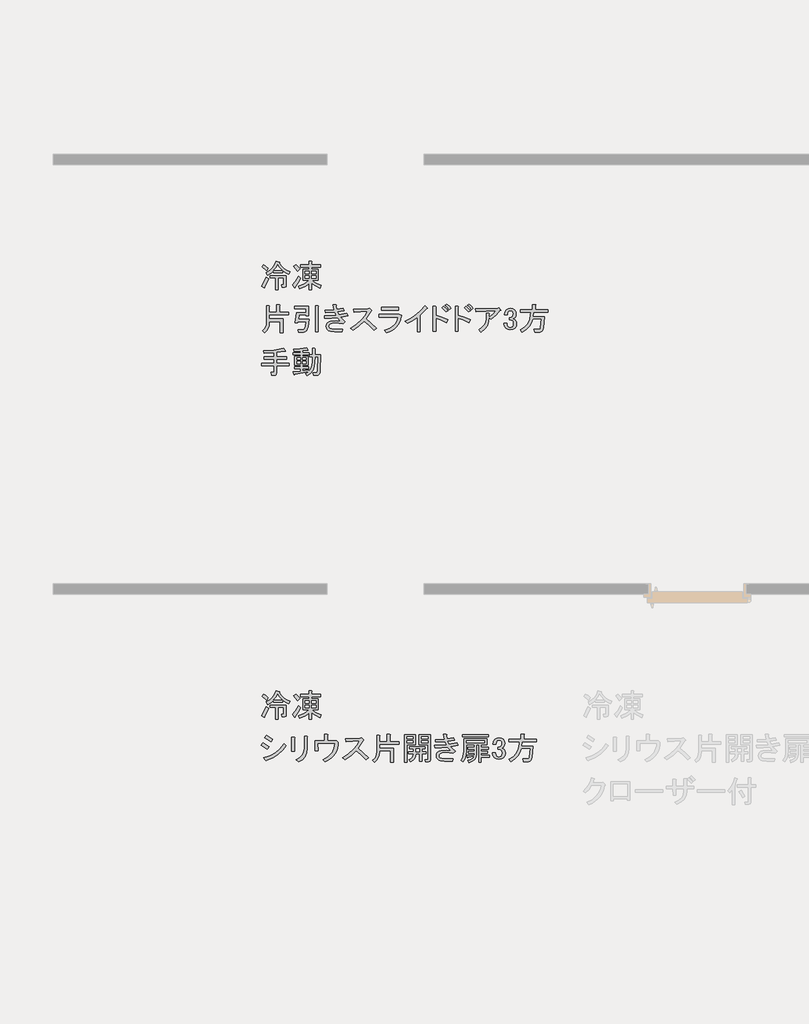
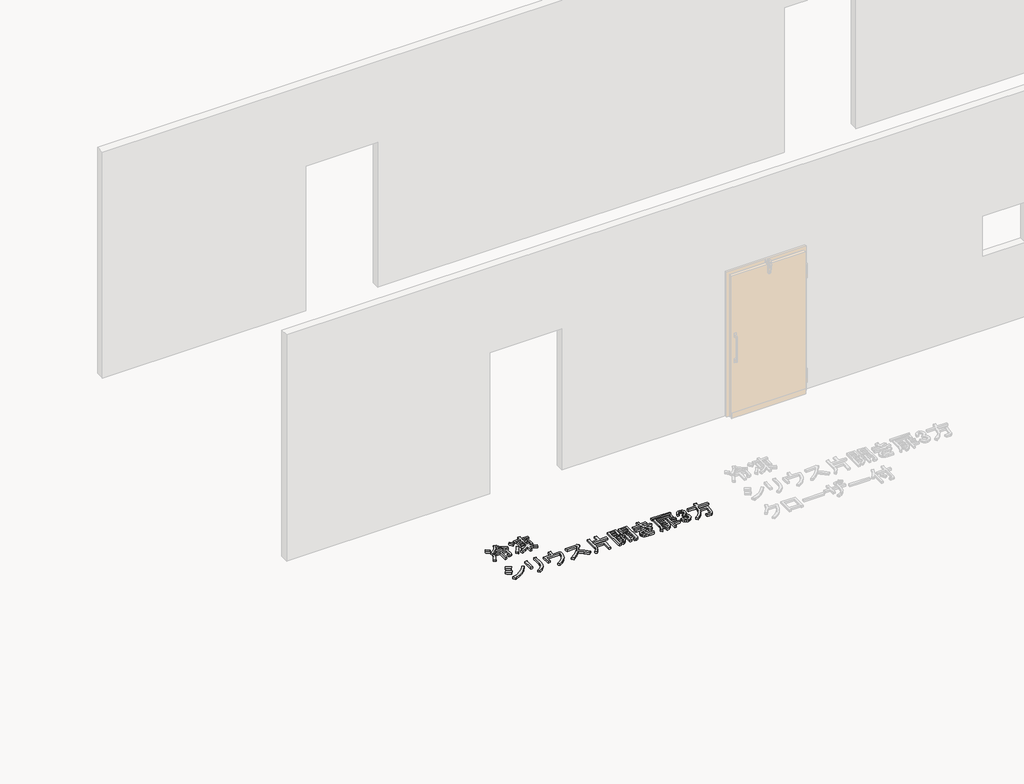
# One storey, part 96 of 117: 2 proxies.
"""IFC4 building model written with IfcOpenShell, lengths in millimetres."""

from ifc_helpers import new_model, si_unit, frame, origin, place, context, project, spatial, polyline, outline, extrude, element, save

model = new_model("IFC4")

# Units and contexts
model_context = context("Model", 3, world=origin())
ifc_project = project(units=[si_unit("LENGTHUNIT", "METRE", prefix="MILLI")], contexts=[model_context])

# Site, building, storey
site = spatial("IfcSite", under=ifc_project)
building = spatial("IfcBuilding", under=site)
storey = spatial("IfcBuildingStorey", under=building, Name="レベル 1", Elevation=500.0)

# Proxies
placement = place(None, origin())
element("IfcBuildingElementProxy", 1, Name="200㎜\u3000MS Pゴシック", ObjectType="200㎜\u3000MS Pゴシック", at=placement, inside=storey, context=model_context, shape_type="SweptSolid", body=[
    extrude(outline(polyline([(4383.6029468, 18948.5050774), (4417.2964447, 18967.9021871), (4443.6621457, 18991.6097656), (4462.7000496, 19019.6278129), (4474.4101566, 19051.9563291), (4505.4455321, 19043.9101206), (4506.882355, 19040.174381), (4501.997157, 19038.1628289), (4520.8195376, 19010.6476696), (4543.9523869, 18987.874026), (4571.3957051, 18969.8418981), (4603.149492, 18956.5512859), (4591.6549085, 18932.4126605), (4562.6310851, 18945.9187961), (4533.0325326, 18965.7469527), (4533.0325326, 18946.2061607), (4450.2715312, 18946.2061607), (4450.2715312, 18964.5974943), (4425.8455412, 18942.7577856), (4396.2469887, 18923.2169937), (4383.6029468, 18948.5050774)]), holes=[polyline([(4530.7336159, 18968.0458694), (4504.5834383, 18995.3455052), (4488.2036568, 19022.0704119), (4474.4101566, 18993.0465885), (4453.7199063, 18968.0458694), (4530.7336159, 18968.0458694)])]), frame((0.0, 0.0, 500.0), z_axis=(0.0, 0.0, 1.0), x_axis=(1.0, 0.0, 0.0)), (0.0, 0.0, 1.0), 25.0),
    extrude(outline(polyline([(4341.0729878, 18822.0646587), (4364.0621548, 18861.7209718), (4382.4534884, 18904.82566), (4403.1437388, 18892.1816181), (4385.6144989, 18848.2148362), (4367.5105299, 18812.8689919), (4366.9358007, 18806.5469709), (4362.9126965, 18805.9722417), (4341.0729878, 18822.0646587)])), frame((0.0, 0.0, 500.0), z_axis=(0.0, 0.0, 1.0), x_axis=(1.0, 0.0, 0.0)), (0.0, 0.0, 1.0), 25.0),
    extrude(outline(polyline([(4420.3856141, 18897.9289099), (4420.3856141, 18919.7686186), (4569.8151998, 18919.7686186), (4569.8151998, 18825.5130337), (4565.7920956, 18814.3058148), (4553.7227829, 18810.5700752), (4528.4346991, 18810.5700752), (4523.8368657, 18832.4097838), (4542.2281994, 18832.4097838), (4545.6765744, 18833.5592422), (4546.8260328, 18837.0076172), (4546.8260328, 18897.9289099), (4492.8014902, 18897.9289099), (4492.8014902, 18786.4314498), (4469.8123232, 18786.4314498), (4469.8123232, 18897.9289099), (4420.3856141, 18897.9289099)])), frame((0.0, 0.0, 500.0), z_axis=(0.0, 0.0, 1.0), x_axis=(1.0, 0.0, 0.0)), (0.0, 0.0, 1.0), 25.0),
    extrude(outline(polyline([(4358.314863, 19022.0704119), (4379.0051134, 19009.1390055), (4401.9942804, 18988.7361197), (4385.9018635, 18965.7469527), (4344.5213628, 19000.2307032), (4358.314863, 19022.0704119)])), frame((0.0, 0.0, 500.0), z_axis=(0.0, 0.0, 1.0), x_axis=(1.0, 0.0, 0.0)), (0.0, 0.0, 1.0), 25.0),
    extrude(outline(polyline([(4652.5762012, 18812.8689919), (4652.8635658, 18808.2711584), (4649.1278261, 18808.2711584), (4629.5870341, 18832.4097838), (4658.0361283, 18868.9050865), (4683.6115767, 18911.7224101), (4702.0029103, 18894.4805349), (4678.7263787, 18852.2379404), (4652.5762012, 18812.8689919)])), frame((0.0, 0.0, 500.0), z_axis=(0.0, 0.0, 1.0), x_axis=(1.0, 0.0, 0.0)), (0.0, 0.0, 1.0), 25.0),
    extrude(outline(polyline([(4659.4729513, 19022.0704119), (4696.2556185, 18981.8393696), (4675.5653682, 18962.2985776), (4639.9321593, 19004.8285366), (4659.4729513, 19022.0704119)])), frame((0.0, 0.0, 500.0), z_axis=(0.0, 0.0, 1.0), x_axis=(1.0, 0.0, 0.0)), (0.0, 0.0, 1.0), 25.0),
    extrude(outline(polyline([(4806.6036203, 18787.5809081), (4783.6144533, 18787.5809081), (4783.6144533, 18849.6516591), (4769.0307005, 18835.4989532), (4749.4180673, 18821.7772941), (4695.1061602, 18795.6271166), (4685.9104934, 18822.0646587), (4715.5090459, 18832.9126719), (4741.0844943, 18845.9159195), (4762.6368384, 18861.0744015), (4780.1660782, 18878.3881179), (4724.9920773, 18878.3881179), (4724.9920773, 18977.2415362), (4783.6144533, 18977.2415362), (4783.6144533, 18996.7823282), (4703.1523687, 18996.7823282), (4703.1523687, 19018.6220369), (4783.6144533, 19018.6220369), (4783.6144533, 19053.1057874), (4805.454162, 19053.1057874), (4810.33936, 19050.8068707), (4806.6036203, 19046.2090373), (4806.6036203, 19018.6220369), (4887.065705, 19018.6220369), (4887.065705, 18996.7823282), (4806.6036203, 18996.7823282), (4806.6036203, 18977.2415362), (4866.3754546, 18977.2415362), (4866.3754546, 18878.3881179), (4807.7530787, 18878.3881179), (4826.1444123, 18862.295701), (4846.8346627, 18848.5022008), (4895.1119134, 18827.8119504), (4884.7667883, 18802.5238667), (4841.6621001, 18823.5014816), (4806.6036203, 18849.6516591), (4806.6036203, 18787.5809081)]), holes=[polyline([(4806.6036203, 18937.0104939), (4846.8346627, 18937.0104939), (4846.8346627, 18958.8502026), (4806.6036203, 18958.8502026), (4806.6036203, 18937.0104939)]), polyline([(4806.6036203, 18896.7794516), (4846.8346627, 18896.7794516), (4846.8346627, 18918.6191602), (4806.6036203, 18918.6191602), (4806.6036203, 18896.7794516)]), polyline([(4744.5328693, 18896.7794516), (4783.6144533, 18896.7794516), (4783.6144533, 18918.6191602), (4744.5328693, 18918.6191602), (4744.5328693, 18896.7794516)]), polyline([(4744.5328693, 18937.0104939), (4783.6144533, 18937.0104939), (4783.6144533, 18958.8502026), (4744.5328693, 18958.8502026), (4744.5328693, 18937.0104939)])]), frame((0.0, 0.0, 500.0), z_axis=(0.0, 0.0, 1.0), x_axis=(1.0, 0.0, 0.0)), (0.0, 0.0, 1.0), 25.0),
    extrude(outline(polyline([(4360.6137797, 18431.2603255), (4419.379838, 18449.7235003), (4470.3870524, 18477.5260242), (4513.6354229, 18514.6678972), (4549.1249495, 18561.1491193), (4569.8151998, 18540.4588689), (4536.4809076, 18496.7794516), (4495.1004069, 18459.9967843), (4445.6736978, 18430.1108671), (4388.2007802, 18407.1217001), (4383.6029468, 18399.9375854), (4376.7061967, 18405.9722417), (4360.6137797, 18431.2603255)])), frame((0.0, 0.0, 500.0), z_axis=(0.0, 0.0, 1.0), x_axis=(1.0, 0.0, 0.0)), (0.0, 0.0, 1.0), 25.0),
    extrude(outline(polyline([(4352.5675713, 18570.3447861), (4411.1899472, 18533.5621188), (4392.7986136, 18509.4234934), (4335.325696, 18546.2061607), (4352.5675713, 18570.3447861)])), frame((0.0, 0.0, 500.0), z_axis=(0.0, 0.0, 1.0), x_axis=(1.0, 0.0, 0.0)), (0.0, 0.0, 1.0), 25.0),
    extrude(outline(polyline([(4384.7524051, 18638.1628289), (4443.3747811, 18601.3801616), (4427.2823642, 18577.2415362), (4369.8094466, 18614.0242035), (4384.7524051, 18638.1628289)])), frame((0.0, 0.0, 500.0), z_axis=(0.0, 0.0, 1.0), x_axis=(1.0, 0.0, 0.0)), (0.0, 0.0, 1.0), 25.0),
    extrude(outline(polyline([(4764.5334447, 18514.0213268), (4759.5045644, 18473.9339668), (4744.4179235, 18439.8812631), (4719.273522, 18411.8632158), (4684.07136, 18389.8798248), (4661.082193, 18409.4206168), (4694.344644, 18428.9614088), (4718.267746, 18453.1000342), (4732.8514988, 18481.836493), (4738.0959026, 18515.1707852), (4738.0959026, 18630.1166204), (4762.234528, 18630.1166204), (4768.5565489, 18626.6682453), (4764.5334447, 18620.9209536), (4764.5334447, 18514.0213268)])), frame((0.0, 0.0, 500.0), z_axis=(0.0, 0.0, 1.0), x_axis=(1.0, 0.0, 0.0)), (0.0, 0.0, 1.0), 25.0),
    extrude(outline(polyline([(4646.1392344, 18488.7332431), (4619.7016923, 18488.7332431), (4619.7016923, 18618.6220369), (4644.989776, 18618.6220369), (4651.0244324, 18615.748391), (4646.1392344, 18609.4263701), (4646.1392344, 18488.7332431)])), frame((0.0, 0.0, 500.0), z_axis=(0.0, 0.0, 1.0), x_axis=(1.0, 0.0, 0.0)), (0.0, 0.0, 1.0), 25.0),
    extrude(outline(polyline([(5053.047491, 18574.9426195), (5051.1616609, 18544.6436157), (5045.5041706, 18516.3920847), (5036.07502, 18490.1880263), (5022.8742093, 18466.0314406), (5005.9017383, 18443.9223276), (4985.1576071, 18423.8606873), (4960.6418157, 18405.8465197), (4932.3543641, 18389.8798248), (4910.5146554, 18411.7195335), (4959.3666353, 18440.1686277), (4978.6200627, 18456.7639327), (4994.4251151, 18474.9397429), (5006.7817923, 18494.6960583), (5015.6900946, 18516.032879), (5021.1500218, 18538.9502048), (5023.1615739, 18563.448036), (4863.3868629, 18563.448036), (4865.6857796, 18495.6299932), (4839.2482375, 18495.6299932), (4835.7998625, 18588.7361197), (4926.6070723, 18588.7361197), (4926.6070723, 18646.2090373), (4949.5962393, 18646.2090373), (4957.3550832, 18643.3353914), (4953.0446144, 18637.0133705), (4953.0446144, 18588.7361197), (5039.2539908, 18588.7361197), (5053.047491, 18574.9426195)])), frame((0.0, 0.0, 500.0), z_axis=(0.0, 0.0, 1.0), x_axis=(1.0, 0.0, 0.0)), (0.0, 0.0, 1.0), 25.0),
    extrude(outline(polyline([(5237.6964807, 18517.4697019), (5286.8358252, 18476.6639304), (5335.4004406, 18430.1108671), (5312.4112736, 18410.5700752), (5264.9961166, 18457.1231384), (5219.3051471, 18495.6299932), (5171.3152609, 18449.9390237), (5117.0033537, 18409.4206168), (5095.163645, 18428.9614088), (5150.6250105, 18468.6177219), (5195.1665217, 18508.2740351), (5228.7881785, 18547.9303482), (5251.4899809, 18587.5866614), (5126.1990205, 18579.5404529), (5122.7506455, 18607.1274534), (5256.0878143, 18612.8747451), (5269.8813145, 18616.3231202), (5288.2726482, 18597.9317865), (5291.1462941, 18591.322401), (5283.6748148, 18587.5866614), (5237.6964807, 18517.4697019)])), frame((0.0, 0.0, 500.0), z_axis=(0.0, 0.0, 1.0), x_axis=(1.0, 0.0, 0.0)), (0.0, 0.0, 1.0), 25.0),
    extrude(outline(polyline([(5435.8631006, 18637.0133705), (5441.8977569, 18633.5649954), (5437.0125589, 18627.8177037), (5437.0125589, 18579.5404529), (5508.2789768, 18579.5404529), (5508.2789768, 18648.507954), (5533.5670605, 18648.507954), (5539.6017169, 18645.059579), (5534.7165189, 18639.3122872), (5534.7165189, 18579.5404529), (5619.7764369, 18579.5404529), (5619.7764369, 18554.2523692), (5437.0125589, 18554.2523692), (5437.0125589, 18517.4697019), (5566.9013527, 18517.4697019), (5566.9013527, 18388.7303665), (5540.4638106, 18388.7303665), (5540.4638106, 18492.1816181), (5437.0125589, 18492.1816181), (5437.0125589, 18480.6870346), (5434.2825953, 18453.7466045), (5426.0927046, 18429.2487734), (5412.4428867, 18407.1935412), (5393.3331416, 18387.5809081), (5374.9418079, 18405.9722417), (5392.0400009, 18421.5617706), (5404.2529959, 18439.5938985), (5411.5807929, 18460.0686254), (5414.0233919, 18482.9859513), (5414.0233919, 18637.0133705), (5435.8631006, 18637.0133705)])), frame((0.0, 0.0, 500.0), z_axis=(0.0, 0.0, 1.0), x_axis=(1.0, 0.0, 0.0)), (0.0, 0.0, 1.0), 25.0),
    extrude(outline(polyline([(5773.8038561, 18548.5050774), (5693.3417714, 18548.5050774), (5693.3417714, 18387.5809081), (5670.3526044, 18387.5809081), (5670.3526044, 18643.9101206), (5773.8038561, 18643.9101206), (5773.8038561, 18548.5050774)]), holes=[polyline([(5750.814689, 18625.518787), (5693.3417714, 18625.518787), (5693.3417714, 18604.8285366), (5750.814689, 18604.8285366), (5750.814689, 18625.518787)]), polyline([(5693.3417714, 18566.896411), (5750.814689, 18566.896411), (5750.814689, 18586.437203), (5693.3417714, 18586.437203), (5693.3417714, 18566.896411)])]), frame((0.0, 0.0, 500.0), z_axis=(0.0, 0.0, 1.0), x_axis=(1.0, 0.0, 0.0)), (0.0, 0.0, 1.0), 25.0),
    extrude(outline(polyline([(5804.8392316, 18643.9101206), (5912.8883167, 18643.9101206), (5912.8883167, 18409.4206168), (5908.2904833, 18395.6271166), (5894.496983, 18391.0292832), (5866.9099826, 18391.0292832), (5863.4616075, 18412.8689919), (5885.3013162, 18412.8689919), (5888.7496913, 18414.0184502), (5889.8991496, 18417.4668253), (5889.8991496, 18548.5050774), (5847.3691906, 18548.5050774), (5804.8392316, 18548.5050774), (5804.8392316, 18643.9101206)]), holes=[polyline([(5889.8991496, 18604.8285366), (5889.8991496, 18625.518787), (5827.8283986, 18625.518787), (5827.8283986, 18604.8285366), (5889.8991496, 18604.8285366)]), polyline([(5827.8283986, 18566.896411), (5889.8991496, 18566.896411), (5889.8991496, 18586.437203), (5827.8283986, 18586.437203), (5827.8283986, 18566.896411)])]), frame((0.0, 0.0, 500.0), z_axis=(0.0, 0.0, 1.0), x_axis=(1.0, 0.0, 0.0)), (0.0, 0.0, 1.0), 25.0),
    extrude(outline(polyline([(5709.4341884, 18465.7440761), (5709.4341884, 18484.1354097), (5755.4125225, 18484.1354097), (5755.4125225, 18511.7224101), (5717.4803968, 18511.7224101), (5717.4803968, 18530.1137438), (5862.3121492, 18530.1137438), (5862.3121492, 18511.7224101), (5832.426232, 18511.7224101), (5832.426232, 18484.1354097), (5871.507816, 18484.1354097), (5871.507816, 18465.7440761), (5832.426232, 18465.7440761), (5832.426232, 18396.7765749), (5809.437065, 18396.7765749), (5809.437065, 18465.7440761), (5778.4016895, 18465.7440761), (5776.0309316, 18442.1083387), (5766.6197414, 18421.7772941), (5750.1681187, 18404.7509422), (5726.6760637, 18391.0292832), (5715.1814801, 18412.8689919), (5732.7825611, 18421.7772941), (5745.3547619, 18433.5592422), (5752.8980823, 18448.2148362), (5755.4125225, 18465.7440761), (5709.4341884, 18465.7440761)]), holes=[polyline([(5809.437065, 18484.1354097), (5809.437065, 18511.7224101), (5778.4016895, 18511.7224101), (5778.4016895, 18484.1354097), (5809.437065, 18484.1354097)])]), frame((0.0, 0.0, 500.0), z_axis=(0.0, 0.0, 1.0), x_axis=(1.0, 0.0, 0.0)), (0.0, 0.0, 1.0), 25.0),
    extrude(outline(polyline([(6073.812486, 18582.988828), (6087.6059862, 18554.2523692), (6160.0218624, 18570.3447861), (6170.3669875, 18546.2061607), (6100.2500281, 18533.5621188), (6120.0781846, 18511.147681), (6145.0789038, 18489.8827014), (6125.5381118, 18470.3419095), (6088.46808, 18477.2386596), (6060.0189857, 18479.5375763), (6022.0868601, 18476.0892012), (6009.1554537, 18471.7787324), (6000.2471514, 18465.7440761), (5994.2124951, 18457.410503), (5992.200943, 18448.5022008), (5993.9251305, 18438.1570756), (5999.0976931, 18430.1108671), (6016.626933, 18423.214117), (6050.8233189, 18420.9152003), (6120.9402784, 18420.9152003), (6116.342445, 18395.6271166), (6046.2254855, 18395.6271166), (6007.1439015, 18400.22495), (5992.7756721, 18405.9722417), (5981.8558178, 18414.0184502), (5971.5106926, 18429.8235025), (5968.0623176, 18449.6516591), (5971.223328, 18465.7440761), (5980.7063595, 18479.5375763), (5993.0630367, 18488.0866728), (6010.5922766, 18494.1931703), (6061.1684441, 18499.0783683), (6102.5489448, 18495.6299932), (6073.812486, 18528.9642854), (6017.2016621, 18523.7917228), (5955.4182757, 18522.0675353), (5951.9699007, 18546.2061607), (6008.8680891, 18546.7808899), (6062.3179024, 18550.8039941), (6049.6738606, 18579.5404529), (5961.1655675, 18576.0920778), (5958.8666508, 18599.0812449), (6043.9265688, 18601.3801616), (6034.730902, 18648.507954), (6060.0189857, 18648.507954), (6066.0536421, 18645.059579), (6061.1684441, 18639.3122872), (6066.9157359, 18604.8285366), (6127.8370285, 18616.3231202), (6135.883237, 18593.3339531), (6073.812486, 18582.988828)])), frame((0.0, 0.0, 500.0), z_axis=(0.0, 0.0, 1.0), x_axis=(1.0, 0.0, 0.0)), (0.0, 0.0, 1.0), 25.0),
    extrude(outline(polyline([(6452.0302621, 18641.6112039), (6452.0302621, 18623.2198703), (6212.9429249, 18623.2198703), (6212.9429249, 18641.6112039), (6452.0302621, 18641.6112039)])), frame((0.0, 0.0, 500.0), z_axis=(0.0, 0.0, 1.0), x_axis=(1.0, 0.0, 0.0)), (0.0, 0.0, 1.0), 25.0),
    extrude(outline(polyline([(6264.6685507, 18403.673325), (6284.4967073, 18410.3545517), (6300.3017597, 18418.9036482), (6312.0837078, 18429.3206145), (6319.8425516, 18441.6054507), (6264.6685507, 18433.5592422), (6262.6569986, 18428.6740442), (6258.921259, 18430.1108671), (6254.3234256, 18451.9505758), (6322.1414683, 18458.8473259), (6322.1414683, 18472.6408262), (6268.1169258, 18472.6408262), (6268.1169258, 18491.0321598), (6322.1414683, 18491.0321598), (6322.1414683, 18509.4234934), (6261.2201757, 18509.4234934), (6261.2201757, 18527.8148271), (6322.1414683, 18527.8148271), (6322.1414683, 18548.5050774), (6247.4266755, 18548.5050774), (6247.4266755, 18482.9859513), (6245.4151233, 18455.6144743), (6239.380467, 18430.9729609), (6229.3227064, 18409.0614111), (6215.2418416, 18389.8798248), (6197.9999663, 18407.1217001), (6209.566391, 18424.7946223), (6217.8281229, 18444.4790965), (6222.785162, 18466.1751229), (6224.4375084, 18489.8827014), (6224.4375084, 18605.977995), (6441.685137, 18605.977995), (6441.685137, 18548.5050774), (6385.3616777, 18548.5050774), (6385.3616777, 18527.8148271), (6455.4786372, 18527.8148271), (6455.4786372, 18509.4234934), (6385.3616777, 18509.4234934), (6385.3616777, 18491.0321598), (6442.8345953, 18491.0321598), (6442.8345953, 18472.6408262), (6385.3616777, 18472.6408262), (6385.3616777, 18453.1000342), (6462.3753873, 18453.1000342), (6462.3753873, 18434.7087005), (6385.3616777, 18434.7087005), (6385.3616777, 18388.7303665), (6365.8208857, 18388.7303665), (6365.8208857, 18548.5050774), (6341.6822603, 18548.5050774), (6341.6822603, 18462.295701), (6337.2999504, 18434.4931771), (6324.1530205, 18412.0068981), (6302.2414706, 18394.836864), (6271.5653009, 18382.9830747), (6264.6685507, 18403.673325)]), holes=[polyline([(6418.6959699, 18587.5866614), (6247.4266755, 18587.5866614), (6247.4266755, 18566.896411), (6418.6959699, 18566.896411), (6418.6959699, 18587.5866614)])]), frame((0.0, 0.0, 500.0), z_axis=(0.0, 0.0, 1.0), x_axis=(1.0, 0.0, 0.0)), (0.0, 0.0, 1.0), 25.0),
    extrude(outline(polyline([(6498.0085962, 18556.5512859), (6502.319065, 18580.6899113), (6515.2504715, 18600.2307032), (6531.9176176, 18611.4379222), (6552.0331388, 18615.1736618), (6574.7349412, 18611.4379222), (6592.2641811, 18600.2307032), (6602.6093062, 18584.1382863), (6606.0576813, 18563.448036), (6603.1840354, 18543.3325148), (6594.5630978, 18528.9642854), (6586.2295247, 18522.6422645), (6577.3212225, 18519.7686186), (6596.8620145, 18508.2740351), (6607.2071396, 18492.1816181), (6610.6555147, 18471.4913678), (6606.6324105, 18448.5022008), (6594.5630978, 18430.1108671), (6575.3096704, 18418.0415544), (6549.734222, 18414.0184502), (6527.6071488, 18418.0415544), (6509.5031797, 18430.1108671), (6497.433867, 18447.640107), (6493.4107628, 18468.0429928), (6493.4107628, 18477.2386596), (6519.8483049, 18477.2386596), (6519.8483049, 18469.1924511), (6522.4345862, 18455.3989509), (6530.1934301, 18443.9043674), (6539.1017323, 18437.869711), (6549.734222, 18435.8581589), (6563.2403577, 18438.1570756), (6573.8728474, 18445.0538257), (6580.7695976, 18456.8357738), (6583.0685143, 18473.7902845), (6580.7695976, 18488.1585139), (6573.8728474, 18499.0783683), (6564.1024514, 18505.9751184), (6553.1825971, 18508.2740351), (6543.9869303, 18508.2740351), (6543.9869303, 18527.8148271), (6550.8836804, 18527.8148271), (6560.941441, 18530.1137438), (6570.4244724, 18537.0104939), (6577.3212225, 18548.2177128), (6579.6201392, 18563.448036), (6577.3212225, 18576.9541716), (6570.4244724, 18587.5866614), (6562.3782639, 18592.759224), (6552.0331388, 18594.4834115), (6542.2627428, 18592.4718594), (6533.6418051, 18586.437203), (6526.4576904, 18574.3678903), (6523.29668, 18556.5512859), (6498.0085962, 18556.5512859)])), frame((0.0, 0.0, 500.0), z_axis=(0.0, 0.0, 1.0), x_axis=(1.0, 0.0, 0.0)), (0.0, 0.0, 1.0), 25.0),
    extrude(outline(polyline([(6763.5334755, 18538.1599522), (6870.4331023, 18538.1599522), (6858.9385187, 18434.7087005), (6855.130938, 18416.6047315), (6848.306029, 18403.673325), (6838.4637919, 18395.9144812), (6825.6042265, 18393.3281999), (6779.6258925, 18393.3281999), (6773.8786007, 18418.6162836), (6823.3053098, 18418.6162836), (6829.9146954, 18422.9267524), (6833.650435, 18435.8581589), (6842.8461018, 18516.3202435), (6760.0851005, 18516.3202435), (6748.3031524, 18480.8307169), (6727.9002666, 18447.9274716), (6698.8764432, 18417.6105076), (6661.2316822, 18389.8798248), (6645.1392653, 18414.0184502), (6684.7237373, 18440.2404689), (6713.8194018, 18472.9281908), (6732.4262589, 18512.0816159), (6740.5443085, 18557.7007442), (6741.6937668, 18578.3909946), (6645.1392653, 18578.3909946), (6645.1392653, 18603.6790783), (6757.7861838, 18603.6790783), (6757.7861838, 18649.6574124), (6783.0742675, 18649.6574124), (6789.1089239, 18646.2090373), (6784.2237259, 18640.4617456), (6784.2237259, 18603.6790783), (6900.3190194, 18603.6790783), (6900.3190194, 18578.3909946), (6768.1313089, 18578.3909946), (6763.5334755, 18538.1599522)])), frame((0.0, 0.0, 500.0), z_axis=(0.0, 0.0, 1.0), x_axis=(1.0, 0.0, 0.0)), (0.0, 0.0, 1.0), 25.0),
])
element("IfcBuildingElementProxy", 2, Name="200㎜\u3000MS Pゴシック", ObjectType="200㎜\u3000MS Pゴシック", at=placement, inside=storey, context=model_context, shape_type="SweptSolid", body=[
    extrude(outline(polyline([(4383.6029468, 22948.5050774), (4417.2964447, 22967.9021871), (4443.6621457, 22991.6097656), (4462.7000496, 23019.6278129), (4474.4101566, 23051.9563291), (4505.4455321, 23043.9101206), (4506.882355, 23040.174381), (4501.997157, 23038.1628289), (4520.8195376, 23010.6476696), (4543.9523869, 22987.874026), (4571.3957051, 22969.8418981), (4603.149492, 22956.5512859), (4591.6549085, 22932.4126605), (4562.6310851, 22945.9187961), (4533.0325326, 22965.7469527), (4533.0325326, 22946.2061607), (4450.2715312, 22946.2061607), (4450.2715312, 22964.5974943), (4425.8455412, 22942.7577856), (4396.2469887, 22923.2169937), (4383.6029468, 22948.5050774)]), holes=[polyline([(4530.7336159, 22968.0458694), (4504.5834383, 22995.3455052), (4488.2036568, 23022.0704119), (4474.4101566, 22993.0465885), (4453.7199063, 22968.0458694), (4530.7336159, 22968.0458694)])]), frame((0.0, 0.0, 500.0), z_axis=(0.0, 0.0, 1.0), x_axis=(1.0, 0.0, 0.0)), (0.0, 0.0, 1.0), 25.0),
    extrude(outline(polyline([(4341.0729878, 22822.0646587), (4364.0621548, 22861.7209718), (4382.4534884, 22904.82566), (4403.1437388, 22892.1816181), (4385.6144989, 22848.2148362), (4367.5105299, 22812.8689919), (4366.9358007, 22806.5469709), (4362.9126965, 22805.9722417), (4341.0729878, 22822.0646587)])), frame((0.0, 0.0, 500.0), z_axis=(0.0, 0.0, 1.0), x_axis=(1.0, 0.0, 0.0)), (0.0, 0.0, 1.0), 25.0),
    extrude(outline(polyline([(4420.3856141, 22897.9289099), (4420.3856141, 22919.7686186), (4569.8151998, 22919.7686186), (4569.8151998, 22825.5130337), (4565.7920956, 22814.3058148), (4553.7227829, 22810.5700752), (4528.4346991, 22810.5700752), (4523.8368657, 22832.4097838), (4542.2281994, 22832.4097838), (4545.6765744, 22833.5592422), (4546.8260328, 22837.0076172), (4546.8260328, 22897.9289099), (4492.8014902, 22897.9289099), (4492.8014902, 22786.4314498), (4469.8123232, 22786.4314498), (4469.8123232, 22897.9289099), (4420.3856141, 22897.9289099)])), frame((0.0, 0.0, 500.0), z_axis=(0.0, 0.0, 1.0), x_axis=(1.0, 0.0, 0.0)), (0.0, 0.0, 1.0), 25.0),
    extrude(outline(polyline([(4358.314863, 23022.0704119), (4379.0051134, 23009.1390055), (4401.9942804, 22988.7361197), (4385.9018635, 22965.7469527), (4344.5213628, 23000.2307032), (4358.314863, 23022.0704119)])), frame((0.0, 0.0, 500.0), z_axis=(0.0, 0.0, 1.0), x_axis=(1.0, 0.0, 0.0)), (0.0, 0.0, 1.0), 25.0),
    extrude(outline(polyline([(4652.5762012, 22812.8689919), (4652.8635658, 22808.2711584), (4649.1278261, 22808.2711584), (4629.5870341, 22832.4097838), (4658.0361283, 22868.9050865), (4683.6115767, 22911.7224101), (4702.0029103, 22894.4805349), (4678.7263787, 22852.2379404), (4652.5762012, 22812.8689919)])), frame((0.0, 0.0, 500.0), z_axis=(0.0, 0.0, 1.0), x_axis=(1.0, 0.0, 0.0)), (0.0, 0.0, 1.0), 25.0),
    extrude(outline(polyline([(4659.4729513, 23022.0704119), (4696.2556185, 22981.8393696), (4675.5653682, 22962.2985776), (4639.9321593, 23004.8285366), (4659.4729513, 23022.0704119)])), frame((0.0, 0.0, 500.0), z_axis=(0.0, 0.0, 1.0), x_axis=(1.0, 0.0, 0.0)), (0.0, 0.0, 1.0), 25.0),
    extrude(outline(polyline([(4806.6036203, 22787.5809081), (4783.6144533, 22787.5809081), (4783.6144533, 22849.6516591), (4769.0307005, 22835.4989532), (4749.4180673, 22821.7772941), (4695.1061602, 22795.6271166), (4685.9104934, 22822.0646587), (4715.5090459, 22832.9126719), (4741.0844943, 22845.9159195), (4762.6368384, 22861.0744015), (4780.1660782, 22878.3881179), (4724.9920773, 22878.3881179), (4724.9920773, 22977.2415362), (4783.6144533, 22977.2415362), (4783.6144533, 22996.7823282), (4703.1523687, 22996.7823282), (4703.1523687, 23018.6220369), (4783.6144533, 23018.6220369), (4783.6144533, 23053.1057874), (4805.454162, 23053.1057874), (4810.33936, 23050.8068707), (4806.6036203, 23046.2090373), (4806.6036203, 23018.6220369), (4887.065705, 23018.6220369), (4887.065705, 22996.7823282), (4806.6036203, 22996.7823282), (4806.6036203, 22977.2415362), (4866.3754546, 22977.2415362), (4866.3754546, 22878.3881179), (4807.7530787, 22878.3881179), (4826.1444123, 22862.295701), (4846.8346627, 22848.5022008), (4895.1119134, 22827.8119504), (4884.7667883, 22802.5238667), (4841.6621001, 22823.5014816), (4806.6036203, 22849.6516591), (4806.6036203, 22787.5809081)]), holes=[polyline([(4806.6036203, 22937.0104939), (4846.8346627, 22937.0104939), (4846.8346627, 22958.8502026), (4806.6036203, 22958.8502026), (4806.6036203, 22937.0104939)]), polyline([(4806.6036203, 22896.7794516), (4846.8346627, 22896.7794516), (4846.8346627, 22918.6191602), (4806.6036203, 22918.6191602), (4806.6036203, 22896.7794516)]), polyline([(4744.5328693, 22896.7794516), (4783.6144533, 22896.7794516), (4783.6144533, 22918.6191602), (4744.5328693, 22918.6191602), (4744.5328693, 22896.7794516)]), polyline([(4744.5328693, 22937.0104939), (4783.6144533, 22937.0104939), (4783.6144533, 22958.8502026), (4744.5328693, 22958.8502026), (4744.5328693, 22937.0104939)])]), frame((0.0, 0.0, 500.0), z_axis=(0.0, 0.0, 1.0), x_axis=(1.0, 0.0, 0.0)), (0.0, 0.0, 1.0), 25.0),
    extrude(outline(polyline([(4408.8910305, 22637.0133705), (4414.9256869, 22633.5649954), (4410.0404889, 22627.8177037), (4410.0404889, 22579.5404529), (4481.3069067, 22579.5404529), (4481.3069067, 22648.507954), (4506.5949905, 22648.507954), (4512.6296468, 22645.059579), (4507.7444488, 22639.3122872), (4507.7444488, 22579.5404529), (4592.8043669, 22579.5404529), (4592.8043669, 22554.2523692), (4410.0404889, 22554.2523692), (4410.0404889, 22517.4697019), (4539.9292827, 22517.4697019), (4539.9292827, 22388.7303665), (4513.4917406, 22388.7303665), (4513.4917406, 22492.1816181), (4410.0404889, 22492.1816181), (4410.0404889, 22480.6870346), (4407.3105253, 22453.7466045), (4399.1206345, 22429.2487734), (4385.4708166, 22407.1935412), (4366.3610715, 22387.5809081), (4347.9697379, 22405.9722417), (4365.0679309, 22421.5617706), (4377.2809259, 22439.5938985), (4384.6087228, 22460.0686254), (4387.0513218, 22482.9859513), (4387.0513218, 22637.0133705), (4408.8910305, 22637.0133705)])), frame((0.0, 0.0, 500.0), z_axis=(0.0, 0.0, 1.0), x_axis=(1.0, 0.0, 0.0)), (0.0, 0.0, 1.0), 25.0),
    extrude(outline(polyline([(4866.3754546, 22396.7765749), (4843.3862876, 22396.7765749), (4843.3862876, 22637.0133705), (4865.2259963, 22637.0133705), (4870.1111943, 22634.7144538), (4866.3754546, 22630.1166204), (4866.3754546, 22396.7765749)])), frame((0.0, 0.0, 500.0), z_axis=(0.0, 0.0, 1.0), x_axis=(1.0, 0.0, 0.0)), (0.0, 0.0, 1.0), 25.0),
    extrude(outline(polyline([(4780.1660782, 22511.7224101), (4770.9704114, 22441.8928152), (4764.6483905, 22419.2628539), (4757.1769112, 22404.8227834), (4746.5444214, 22397.0639395), (4730.7393691, 22394.4776582), (4684.761035, 22394.4776582), (4681.31266, 22416.3173669), (4723.842619, 22416.3173669), (4734.4751088, 22418.328919), (4741.0844943, 22424.3635754), (4749.1307027, 22448.2148362), (4754.8779945, 22489.8827014), (4677.8642849, 22489.8827014), (4675.5653682, 22478.3881179), (4651.4267428, 22481.836493), (4667.5191597, 22574.9426195), (4753.7285361, 22574.9426195), (4753.7285361, 22611.7252868), (4647.9783678, 22611.7252868), (4647.9783678, 22633.5649954), (4776.7177032, 22633.5649954), (4776.7177032, 22547.355619), (4753.7285361, 22547.355619), (4753.7285361, 22553.1029108), (4689.3588684, 22553.1029108), (4682.4621183, 22511.7224101), (4780.1660782, 22511.7224101)])), frame((0.0, 0.0, 500.0), z_axis=(0.0, 0.0, 1.0), x_axis=(1.0, 0.0, 0.0)), (0.0, 0.0, 1.0), 25.0),
    extrude(outline(polyline([(5046.8404159, 22582.988828), (5060.6339161, 22554.2523692), (5133.0497923, 22570.3447861), (5143.3949175, 22546.2061607), (5073.277958, 22533.5621188), (5093.1061146, 22511.147681), (5118.1068337, 22489.8827014), (5098.5660418, 22470.3419095), (5061.4960099, 22477.2386596), (5033.0469157, 22479.5375763), (4995.1147901, 22476.0892012), (4982.1833836, 22471.7787324), (4973.2750814, 22465.7440761), (4967.240425, 22457.410503), (4965.2288729, 22448.5022008), (4966.9530605, 22438.1570756), (4972.125623, 22430.1108671), (4989.6548629, 22423.214117), (5023.8512489, 22420.9152003), (5093.9682084, 22420.9152003), (5089.3703749, 22395.6271166), (5019.2534155, 22395.6271166), (4980.1718315, 22400.22495), (4965.8036021, 22405.9722417), (4954.8837478, 22414.0184502), (4944.5386226, 22429.8235025), (4941.0902475, 22449.6516591), (4944.251258, 22465.7440761), (4953.7342894, 22479.5375763), (4966.0909667, 22488.0866728), (4983.6202066, 22494.1931703), (5034.196374, 22499.0783683), (5075.5768747, 22495.6299932), (5046.8404159, 22528.9642854), (4990.2295921, 22523.7917228), (4928.4462057, 22522.0675353), (4924.9978306, 22546.2061607), (4981.896019, 22546.7808899), (5035.3458324, 22550.8039941), (5022.7017905, 22579.5404529), (4934.1934974, 22576.0920778), (4931.8945807, 22599.0812449), (5016.9544988, 22601.3801616), (5007.7588319, 22648.507954), (5033.0469157, 22648.507954), (5039.081572, 22645.059579), (5034.196374, 22639.3122872), (5039.9436658, 22604.8285366), (5100.8649585, 22616.3231202), (5108.9111669, 22593.3339531), (5046.8404159, 22582.988828)])), frame((0.0, 0.0, 500.0), z_axis=(0.0, 0.0, 1.0), x_axis=(1.0, 0.0, 0.0)), (0.0, 0.0, 1.0), 25.0),
    extrude(outline(polyline([(5311.2618152, 22517.4697019), (5360.4011598, 22476.6639304), (5408.9657751, 22430.1108671), (5385.9766081, 22410.5700752), (5338.5614511, 22457.1231384), (5292.8704816, 22495.6299932), (5244.8805954, 22449.9390237), (5190.5686883, 22409.4206168), (5168.7289796, 22428.9614088), (5224.1903451, 22468.6177219), (5268.7318562, 22508.2740351), (5302.353513, 22547.9303482), (5325.0553154, 22587.5866614), (5199.7643551, 22579.5404529), (5196.31598, 22607.1274534), (5329.6531489, 22612.8747451), (5343.4466491, 22616.3231202), (5361.8379827, 22597.9317865), (5364.7116286, 22591.322401), (5357.2401493, 22587.5866614), (5311.2618152, 22517.4697019)])), frame((0.0, 0.0, 500.0), z_axis=(0.0, 0.0, 1.0), x_axis=(1.0, 0.0, 0.0)), (0.0, 0.0, 1.0), 25.0),
    extrude(outline(polyline([(5615.1786035, 22597.9317865), (5456.5533509, 22597.9317865), (5456.5533509, 22623.2198703), (5615.1786035, 22623.2198703), (5615.1786035, 22597.9317865)])), frame((0.0, 0.0, 500.0), z_axis=(0.0, 0.0, 1.0), x_axis=(1.0, 0.0, 0.0)), (0.0, 0.0, 1.0), 25.0),
    extrude(outline(polyline([(5485.2898097, 22411.7195335), (5534.9320423, 22430.039026), (5555.1732855, 22442.1622195), (5572.3612799, 22456.2610446), (5586.4960256, 22472.3355013), (5597.5775225, 22490.3855895), (5605.6057707, 22510.4113092), (5610.5807701, 22532.4126605), (5435.8631006, 22532.4126605), (5435.8631006, 22557.7007442), (5611.7302284, 22557.7007442), (5622.0753536, 22561.1491193), (5642.765604, 22548.5050774), (5645.6392498, 22543.0451502), (5640.4666872, 22538.1599522), (5634.3422295, 22510.6807135), (5625.1645229, 22485.7159149), (5612.9335677, 22463.2655565), (5597.6493636, 22443.3296382), (5579.3119109, 22425.90816), (5557.9212093, 22411.001122), (5533.4772591, 22398.6085242), (5505.9800601, 22388.7303665), (5485.2898097, 22411.7195335)])), frame((0.0, 0.0, 500.0), z_axis=(0.0, 0.0, 1.0), x_axis=(1.0, 0.0, 0.0)), (0.0, 0.0, 1.0), 25.0),
    extrude(outline(polyline([(5677.6631595, 22496.7794516), (5734.3458245, 22524.6538166), (5783.7006925, 22557.7007442), (5825.7277635, 22595.9202344), (5860.4270375, 22639.3122872), (5882.2667462, 22620.9209536), (5884.8530275, 22614.8862972), (5874.2205377, 22610.5758284), (5849.2198186, 22581.552005), (5817.8970785, 22551.9534525), (5817.8970785, 22395.6271166), (5791.4595364, 22395.6271166), (5791.4595364, 22530.1137438), (5747.780119, 22500.5151912), (5697.2039515, 22473.7902845), (5677.6631595, 22496.7794516)])), frame((0.0, 0.0, 500.0), z_axis=(0.0, 0.0, 1.0), x_axis=(1.0, 0.0, 0.0)), (0.0, 0.0, 1.0), 25.0),
    extrude(outline(polyline([(6062.6397508, 22480.6870346), (6007.1783853, 22506.5498475), (5962.6368742, 22522.0675353), (5962.6368742, 22402.5238667), (5936.1993321, 22402.5238667), (5936.1993321, 22632.4155371), (5959.1884991, 22632.4155371), (5966.947343, 22629.5418912), (5962.6368742, 22623.2198703), (5962.6368742, 22550.8039941), (6019.247698, 22531.8379313), (6076.433251, 22507.1245767), (6062.6397508, 22480.6870346)])), frame((0.0, 0.0, 500.0), z_axis=(0.0, 0.0, 1.0), x_axis=(1.0, 0.0, 0.0)), (0.0, 0.0, 1.0), 25.0),
    extrude(outline(polyline([(6060.3408341, 22581.8393696), (6040.8000421, 22603.6790783), (6021.2592501, 22620.9209536), (6036.2022087, 22632.4155371), (6055.7430007, 22615.1736618), (6075.2837927, 22593.3339531), (6060.3408341, 22581.8393696)])), frame((0.0, 0.0, 500.0), z_axis=(0.0, 0.0, 1.0), x_axis=(1.0, 0.0, 0.0)), (0.0, 0.0, 1.0), 25.0),
    extrude(outline(polyline([(6087.9278345, 22603.6790783), (6070.9733238, 22622.9325057), (6049.9957089, 22641.6112039), (6064.9386675, 22653.1057874), (6084.1920949, 22636.7260059), (6102.8707931, 22615.1736618), (6087.9278345, 22603.6790783)])), frame((0.0, 0.0, 500.0), z_axis=(0.0, 0.0, 1.0), x_axis=(1.0, 0.0, 0.0)), (0.0, 0.0, 1.0), 25.0),
    extrude(outline(polyline([(6271.5653009, 22480.6870346), (6216.1039354, 22506.5498475), (6171.5624242, 22522.0675353), (6171.5624242, 22402.5238667), (6145.1248821, 22402.5238667), (6145.1248821, 22632.4155371), (6168.1140492, 22632.4155371), (6175.872893, 22629.5418912), (6171.5624242, 22623.2198703), (6171.5624242, 22550.8039941), (6228.1732481, 22531.8379313), (6285.3588011, 22507.1245767), (6271.5653009, 22480.6870346)])), frame((0.0, 0.0, 500.0), z_axis=(0.0, 0.0, 1.0), x_axis=(1.0, 0.0, 0.0)), (0.0, 0.0, 1.0), 25.0),
    extrude(outline(polyline([(6269.2663841, 22581.8393696), (6249.7255922, 22603.6790783), (6230.1848002, 22620.9209536), (6245.1277588, 22632.4155371), (6264.6685507, 22615.1736618), (6284.2093427, 22593.3339531), (6269.2663841, 22581.8393696)])), frame((0.0, 0.0, 500.0), z_axis=(0.0, 0.0, 1.0), x_axis=(1.0, 0.0, 0.0)), (0.0, 0.0, 1.0), 25.0),
    extrude(outline(polyline([(6296.8533846, 22603.6790783), (6279.8988739, 22622.9325057), (6258.921259, 22641.6112039), (6273.8642176, 22653.1057874), (6293.117645, 22636.7260059), (6311.7963432, 22615.1736618), (6296.8533846, 22603.6790783)])), frame((0.0, 0.0, 500.0), z_axis=(0.0, 0.0, 1.0), x_axis=(1.0, 0.0, 0.0)), (0.0, 0.0, 1.0), 25.0),
    extrude(outline(polyline([(6459.8006006, 22530.1137438), (6455.9930198, 22488.8769254), (6442.2713607, 22452.525305), (6418.6356234, 22421.0588826), (6385.0858077, 22394.4776582), (6365.5450157, 22416.3173669), (6395.2154094, 22436.5765704), (6416.4085478, 22460.5715135), (6429.1244308, 22488.3021962), (6433.3630585, 22519.7686186), (6433.3630585, 22569.1953277), (6457.5016839, 22569.1953277), (6463.2489756, 22566.6090464), (6459.8006006, 22561.1491193), (6459.8006006, 22531.2632021), (6496.2959033, 22562.011213), (6523.0208099, 22592.1844948), (6335.6590986, 22585.2877447), (6333.3601819, 22611.7252868), (6542.5616019, 22617.4725785), (6550.6078104, 22619.7714952), (6567.8496857, 22599.0812449), (6568.1370503, 22595.9202344), (6562.1023939, 22595.6328698), (6524.1702683, 22552.240817), (6479.3413926, 22511.7224101), (6459.8006006, 22530.1137438)])), frame((0.0, 0.0, 500.0), z_axis=(0.0, 0.0, 1.0), x_axis=(1.0, 0.0, 0.0)), (0.0, 0.0, 1.0), 25.0),
    extrude(outline(polyline([(6603.9426779, 22556.5512859), (6608.2531468, 22580.6899113), (6621.1845532, 22600.2307032), (6637.8516993, 22611.4379222), (6657.9672205, 22615.1736618), (6680.6690229, 22611.4379222), (6698.1982628, 22600.2307032), (6708.543388, 22584.1382863), (6711.991763, 22563.448036), (6709.1181171, 22543.3325148), (6700.4971795, 22528.9642854), (6692.1636064, 22522.6422645), (6683.2553042, 22519.7686186), (6702.7960962, 22508.2740351), (6713.1412214, 22492.1816181), (6716.5895964, 22471.4913678), (6712.5664922, 22448.5022008), (6700.4971795, 22430.1108671), (6681.2437521, 22418.0415544), (6655.6683038, 22414.0184502), (6633.5412305, 22418.0415544), (6615.4372615, 22430.1108671), (6603.3679488, 22447.640107), (6599.3448445, 22468.0429928), (6599.3448445, 22477.2386596), (6625.7823866, 22477.2386596), (6625.7823866, 22469.1924511), (6628.3686679, 22455.3989509), (6636.1275118, 22443.9043674), (6645.035814, 22437.869711), (6655.6683038, 22435.8581589), (6669.1744394, 22438.1570756), (6679.8069292, 22445.0538257), (6686.7036793, 22456.8357738), (6689.002596, 22473.7902845), (6686.7036793, 22488.1585139), (6679.8069292, 22499.0783683), (6670.0365332, 22505.9751184), (6659.1166788, 22508.2740351), (6649.921012, 22508.2740351), (6649.921012, 22527.8148271), (6656.8177621, 22527.8148271), (6666.8755227, 22530.1137438), (6676.3585541, 22537.0104939), (6683.2553042, 22548.2177128), (6685.5542209, 22563.448036), (6683.2553042, 22576.9541716), (6676.3585541, 22587.5866614), (6668.3123456, 22592.759224), (6657.9672205, 22594.4834115), (6648.1968245, 22592.4718594), (6639.5758868, 22586.437203), (6632.3917721, 22574.3678903), (6629.2307617, 22556.5512859), (6603.9426779, 22556.5512859)])), frame((0.0, 0.0, 500.0), z_axis=(0.0, 0.0, 1.0), x_axis=(1.0, 0.0, 0.0)), (0.0, 0.0, 1.0), 25.0),
    extrude(outline(polyline([(6869.4675573, 22538.1599522), (6976.367184, 22538.1599522), (6964.8726005, 22434.7087005), (6961.0650197, 22416.6047315), (6954.2401107, 22403.673325), (6944.3978736, 22395.9144812), (6931.5383083, 22393.3281999), (6885.5599742, 22393.3281999), (6879.8126824, 22418.6162836), (6929.2393916, 22418.6162836), (6935.8487771, 22422.9267524), (6939.5845167, 22435.8581589), (6948.7801835, 22516.3202435), (6866.0191822, 22516.3202435), (6854.2372341, 22480.8307169), (6833.8343483, 22447.9274716), (6804.8105249, 22417.6105076), (6767.1657639, 22389.8798248), (6751.073347, 22414.0184502), (6790.657819, 22440.2404689), (6819.7534835, 22472.9281908), (6838.3603406, 22512.0816159), (6846.4783902, 22557.7007442), (6847.6278486, 22578.3909946), (6751.073347, 22578.3909946), (6751.073347, 22603.6790783), (6863.7202655, 22603.6790783), (6863.7202655, 22649.6574124), (6889.0083492, 22649.6574124), (6895.0430056, 22646.2090373), (6890.1578076, 22640.4617456), (6890.1578076, 22603.6790783), (7006.2531011, 22603.6790783), (7006.2531011, 22578.3909946), (6874.0653907, 22578.3909946), (6869.4675573, 22538.1599522)])), frame((0.0, 0.0, 500.0), z_axis=(0.0, 0.0, 1.0), x_axis=(1.0, 0.0, 0.0)), (0.0, 0.0, 1.0), 25.0),
    extrude(outline(polyline([(4358.314863, 22219.7714952), (4454.582, 22226.0935162), (4545.6765744, 22242.7606623), (4560.619533, 22224.3693286), (4563.2058143, 22217.4725785), (4554.8722412, 22217.4725785), (4481.3069067, 22205.977995), (4481.3069067, 22164.5974943), (4572.1141165, 22164.5974943), (4572.1141165, 22142.7577856), (4481.3069067, 22142.7577856), (4481.3069067, 22103.6762017), (4596.2527419, 22103.6762017), (4596.2527419, 22081.836493), (4481.3069067, 22081.836493), (4481.3069067, 22012.8689919), (4476.4217087, 21997.3513041), (4470.3152112, 21993.4718822), (4461.7661147, 21992.1787415), (4431.8801976, 21992.1787415), (4426.1329058, 22017.4668253), (4454.8693646, 22017.4668253), (4458.3177397, 22020.9152003), (4458.3177397, 22081.836493), (4341.0729878, 22081.836493), (4341.0729878, 22103.6762017), (4458.3177397, 22103.6762017), (4458.3177397, 22142.7577856), (4365.2116132, 22142.7577856), (4365.2116132, 22164.5974943), (4458.3177397, 22164.5974943), (4458.3177397, 22202.5296199), (4364.0621548, 22197.9317865), (4358.314863, 22219.7714952)])), frame((0.0, 0.0, 500.0), z_axis=(0.0, 0.0, 1.0), x_axis=(1.0, 0.0, 0.0)), (0.0, 0.0, 1.0), 25.0),
    extrude(outline(polyline([(4751.4296194, 22007.1217001), (4775.5682448, 22024.3635754), (4646.8289094, 22000.22495), (4644.8173573, 21995.339752), (4641.0816176, 21996.7765749), (4634.1848675, 22022.0646587), (4700.853452, 22030.1108671), (4700.853452, 22050.8011175), (4646.8289094, 22050.8011175), (4646.8289094, 22069.1924511), (4700.853452, 22069.1924511), (4700.853452, 22086.4343264), (4674.4159099, 22086.4343264), (4649.1278261, 22086.4343264), (4649.1278261, 22168.0458694), (4700.853452, 22168.0458694), (4700.853452, 22184.1382863), (4634.1848675, 22184.1382863), (4634.1848675, 22202.5296199), (4700.853452, 22202.5296199), (4700.853452, 22216.3231202), (4643.3805344, 22214.0242035), (4639.9321593, 22233.5649954), (4698.2671707, 22236.7260059), (4760.6252863, 22246.2090373), (4770.9704114, 22226.6682453), (4770.9704114, 22222.6451411), (4764.0736613, 22224.3693286), (4720.3942439, 22218.6220369), (4720.3942439, 22202.5296199), (4783.6144533, 22202.5296199), (4783.6144533, 22184.1382863), (4720.3942439, 22184.1382863), (4720.3942439, 22168.0458694), (4773.2693281, 22168.0458694), (4773.2693281, 22086.4343264), (4720.3942439, 22086.4343264), (4720.3942439, 22069.1924511), (4777.8671615, 22069.1924511), (4777.8671615, 22050.8011175), (4720.3942439, 22050.8011175), (4720.3942439, 22033.5592422), (4777.8671615, 22042.754909), (4777.8671615, 22026.6624921), (4792.5227555, 22043.5451616), (4803.1552453, 22064.3072531), (4809.7646308, 22088.9487665), (4812.3509121, 22117.4697019), (4813.5003705, 22162.2985776), (4785.91337, 22162.2985776), (4785.91337, 22184.1382863), (4813.5003705, 22184.1382863), (4813.5003705, 22242.7606623), (4835.3400791, 22242.7606623), (4840.2252771, 22240.4617456), (4836.4895375, 22235.8639122), (4836.4895375, 22184.1382863), (4887.065705, 22184.1382863), (4884.7667883, 22032.4097838), (4882.4678716, 22014.3058148), (4876.7205798, 22001.3744083), (4867.524913, 21993.6155645), (4854.8808711, 21991.0292832), (4823.8454956, 21991.0292832), (4820.3971206, 22012.8689919), (4846.8346627, 22012.8689919), (4852.9411602, 22014.3776559), (4857.4671524, 22018.9036482), (4861.7776212, 22037.0076172), (4865.2259963, 22162.2985776), (4836.4895375, 22162.2985776), (4835.3400791, 22108.2740351), (4830.5267223, 22070.8447975), (4817.2361101, 22037.869711), (4795.4682426, 22009.3487757), (4765.2231197, 21985.2819914), (4751.4296194, 22007.1217001)]), holes=[polyline([(4720.3942439, 22120.9180769), (4720.3942439, 22100.2278266), (4753.7285361, 22100.2278266), (4753.7285361, 22120.9180769), (4720.3942439, 22120.9180769)]), polyline([(4720.3942439, 22154.2523692), (4720.3942439, 22134.7115772), (4753.7285361, 22134.7115772), (4753.7285361, 22154.2523692), (4720.3942439, 22154.2523692)]), polyline([(4668.6686181, 22120.9180769), (4668.6686181, 22100.2278266), (4700.853452, 22100.2278266), (4700.853452, 22120.9180769), (4668.6686181, 22120.9180769)]), polyline([(4668.6686181, 22154.2523692), (4668.6686181, 22134.7115772), (4700.853452, 22134.7115772), (4700.853452, 22154.2523692), (4668.6686181, 22154.2523692)])]), frame((0.0, 0.0, 500.0), z_axis=(0.0, 0.0, 1.0), x_axis=(1.0, 0.0, 0.0)), (0.0, 0.0, 1.0), 25.0),
])

save(model, "model.ifc")
